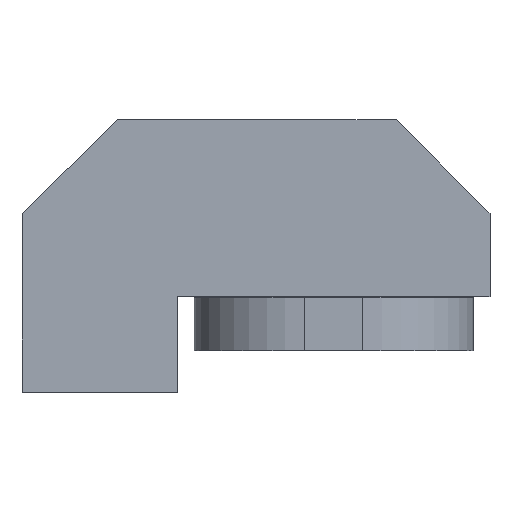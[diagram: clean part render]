
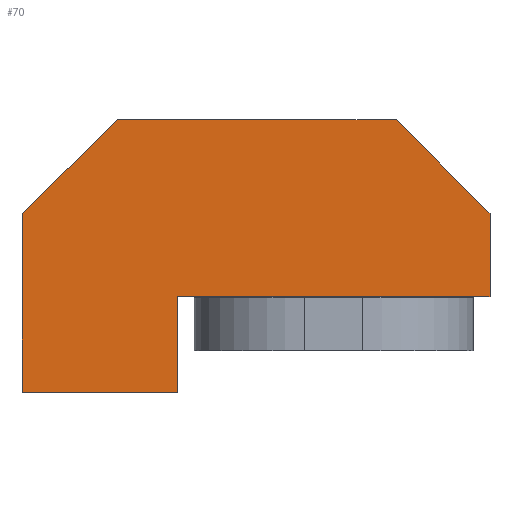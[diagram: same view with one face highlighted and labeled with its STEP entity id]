
A CAD part, top view. The second image highlights one B-rep face of the part: STEP entity #70.
In plain terms, the highlighted planar face has unit normal (0, 0, 1).
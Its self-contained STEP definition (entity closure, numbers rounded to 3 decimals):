
#70=ADVANCED_FACE('',(#111),#112,.T.);
#111=FACE_OUTER_BOUND('',#175,.T.);
#112=PLANE('',#176);
#175=EDGE_LOOP('',(#279,#280,#281,#282,#283,#284,#285,#286));
#176=AXIS2_PLACEMENT_3D('',#287,#288,#289);
#279=ORIENTED_EDGE('',*,*,#475,.F.);
#280=ORIENTED_EDGE('',*,*,#497,.F.);
#281=ORIENTED_EDGE('',*,*,#494,.F.);
#282=ORIENTED_EDGE('',*,*,#491,.F.);
#283=ORIENTED_EDGE('',*,*,#488,.F.);
#284=ORIENTED_EDGE('',*,*,#485,.F.);
#285=ORIENTED_EDGE('',*,*,#482,.F.);
#286=ORIENTED_EDGE('',*,*,#479,.F.);
#287=CARTESIAN_POINT('',(-119.614,173.741,155.0));
#288=DIRECTION('',(0.0,0.0,1.0));
#289=DIRECTION('',(1.0,0.0,0.0));
#475=EDGE_CURVE('',#553,#554,#555,.T.);
#479=EDGE_CURVE('',#554,#561,#562,.T.);
#482=EDGE_CURVE('',#561,#566,#567,.T.);
#485=EDGE_CURVE('',#566,#571,#572,.T.);
#488=EDGE_CURVE('',#571,#576,#577,.T.);
#491=EDGE_CURVE('',#576,#581,#582,.T.);
#494=EDGE_CURVE('',#581,#586,#587,.T.);
#497=EDGE_CURVE('',#586,#553,#591,.T.);
#553=VERTEX_POINT('',#683);
#554=VERTEX_POINT('',#684);
#555=LINE('',#685,#686);
#561=VERTEX_POINT('',#695);
#562=LINE('',#696,#697);
#566=VERTEX_POINT('',#703);
#567=LINE('',#704,#705);
#571=VERTEX_POINT('',#711);
#572=LINE('',#712,#713);
#576=VERTEX_POINT('',#719);
#577=LINE('',#720,#721);
#581=VERTEX_POINT('',#727);
#582=LINE('',#728,#729);
#586=VERTEX_POINT('',#735);
#587=LINE('',#736,#737);
#591=LINE('',#743,#744);
#683=CARTESIAN_POINT('',(-375.0,215.0,155.0));
#684=CARTESIAN_POINT('',(-260.0,328.0,155.0));
#685=CARTESIAN_POINT('',(-375.0,215.0,155.0));
#686=VECTOR('',#879,1.0);
#695=CARTESIAN_POINT('',(75.0,328.0,155.0));
#696=CARTESIAN_POINT('',(-260.0,328.0,155.0));
#697=VECTOR('',#883,1.0);
#703=CARTESIAN_POINT('',(188.0,215.0,155.0));
#704=CARTESIAN_POINT('',(75.0,328.0,155.0));
#705=VECTOR('',#886,1.0);
#711=CARTESIAN_POINT('',(188.0,115.0,155.0));
#712=CARTESIAN_POINT('',(188.0,215.0,155.0));
#713=VECTOR('',#889,1.0);
#719=CARTESIAN_POINT('',(-188.0,115.0,155.0));
#720=CARTESIAN_POINT('',(188.0,115.0,155.0));
#721=VECTOR('',#892,1.0);
#727=CARTESIAN_POINT('',(-188.0,0.0,155.0));
#728=CARTESIAN_POINT('',(-188.0,115.0,155.0));
#729=VECTOR('',#895,1.0);
#735=CARTESIAN_POINT('',(-375.0,0.0,155.0));
#736=CARTESIAN_POINT('',(-188.0,0.0,155.0));
#737=VECTOR('',#898,1.0);
#743=CARTESIAN_POINT('',(-375.0,0.0,155.0));
#744=VECTOR('',#901,1.0);
#879=DIRECTION('',(0.713,0.701,0.0));
#883=DIRECTION('',(1.0,0.0,0.0));
#886=DIRECTION('',(0.707,-0.707,0.0));
#889=DIRECTION('',(0.0,-1.0,0.0));
#892=DIRECTION('',(-1.0,0.0,0.0));
#895=DIRECTION('',(0.0,-1.0,0.0));
#898=DIRECTION('',(-1.0,0.0,0.0));
#901=DIRECTION('',(0.0,1.0,0.0));
